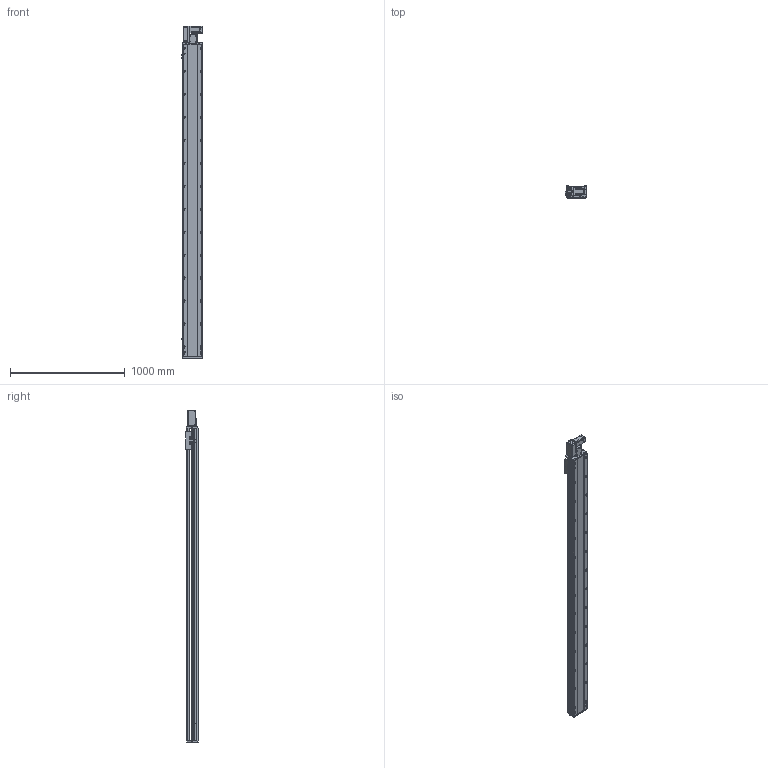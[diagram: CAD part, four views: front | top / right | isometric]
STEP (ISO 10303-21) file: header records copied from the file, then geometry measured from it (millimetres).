
FILE_DESCRIPTION (( 'STEP AP214' ), '1' );
FILE_NAME ('RTB17S-XX-2450-L-M40-C4.STEP', '2025-12-11T05:55:07', ( '' ), ( '' ), 'SwSTEP 2.0', 'SolidWorks 2018', '' );
FILE_SCHEMA (( 'AUTOMOTIVE_DESIGN' ));
Length unit declared in the file: millimetre
Products named in the file (14): RTB14-L-005P--轴承塑胶压盖^RTB17S-L-皮带座装配-400W_RTB17S-XX-XX-L-M40-C4（方程式）; RTB17S-L-004丝杆螺母连接座^RTB17S-XX-XX-L-M40-C4（方程式）; RMP17S-L-014-T20--皮带座^RTB17S-L-皮带座装配-400W_RTB17S-XX-XX-L-M40-C4（方程式）; 400W伺服电机^RTB17S-XX-XX-L-M40-C4（方程式）; RTB17S-L-007上盖^RTB17S-XX-XX-L-M40-C4（方程式）; RTH13-BL-012感应片外置^RTB17S-XX-XX-L-M40-C4（方程式）; RTB17-R-011底座^RTB17S-XX-XX-L-M40-C4（方程式）; RTB17S-L-001侧面板^RTB17S-XX-XX-L-M40-C4（方程式）; OMRON EE-SX672 传感器^RTB17S-XX-XX-L-M40-C4（方程式）; RTB17S-XX-2450-L-M40-C4; RTB17S-L-皮带座装配-400W^RTB17S-XX-XX-L-M40-C4（方程式）; RTB14-L-018P^RTB17S-L-皮带座装配-400W_RTB17S-XX-XX-L-M40-C4（方程式）; RTB14-L-008-M20--电机板^RTB17S-L-皮带座装配-400W_RTB17S-XX-XX-L-M40-C4（方程式）; RTB14-L-017P^RTB17S-L-皮带座装配-400W_RTB17S-XX-XX-L-M40-C4（方程式）
Assembly tree (16 placements, depth 3):
  RTB17S-XX-2450-L-M40-C4
    RTB17-R-011底座^RTB17S-XX-XX-L-M40-C4（方程式）
    RTB17S-L-007上盖^RTB17S-XX-XX-L-M40-C4（方程式）
    OMRON EE-SX672 传感器^RTB17S-XX-XX-L-M40-C4（方程式）  x3
    RTB17S-L-001侧面板^RTB17S-XX-XX-L-M40-C4（方程式）
    400W伺服电机^RTB17S-XX-XX-L-M40-C4（方程式）
    RTB17S-L-004丝杆螺母连接座^RTB17S-XX-XX-L-M40-C4（方程式）
    RTH13-BL-012感应片外置^RTB17S-XX-XX-L-M40-C4（方程式）
    RTB17S-L-皮带座装配-400W^RTB17S-XX-XX-L-M40-C4（方程式）
      RMP17S-L-014-T20--皮带座^RTB17S-L-皮带座装配-400W_RTB17S-XX-XX-L-M40-C4（方程式）
      RTB14-L-005P--轴承塑胶压盖^RTB17S-L-皮带座装配-400W_RTB17S-XX-XX-L-M40-C4（方程式）
      RTB14-L-008-M20--电机板^RTB17S-L-皮带座装配-400W_RTB17S-XX-XX-L-M40-C4（方程式）
      RTB14-L-017P^RTB17S-L-皮带座装配-400W_RTB17S-XX-XX-L-M40-C4（方程式）  x2
      RTB14-L-018P^RTB17S-L-皮带座装配-400W_RTB17S-XX-XX-L-M40-C4（方程式）
Bounding box: 186 x 108 x 2891 mm (x, y, z)
Volume: 24193735.4 mm3; surface area: 2789336 mm2
Topology: 15 solids, 15 shells, 2333 faces, 6519 edges, 4257 vertices
Faces by surface type: plane 1084, cylinder 801, bspline 301, cone 139, torus 8
Entity records: 68777 total; most frequent: CARTESIAN_POINT 19524, ORIENTED_EDGE 9882, DIRECTION 9116, EDGE_CURVE 4941, VERTEX_POINT 3245, AXIS2_PLACEMENT_3D 3175, LINE 2766, VECTOR 2766
